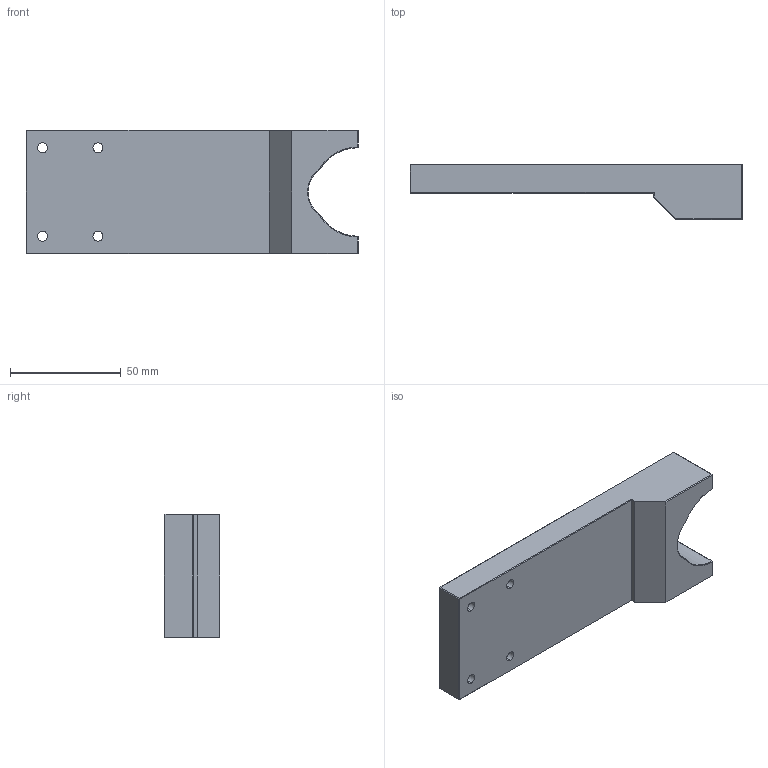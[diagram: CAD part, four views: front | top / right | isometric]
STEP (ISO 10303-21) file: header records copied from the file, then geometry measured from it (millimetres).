
FILE_DESCRIPTION (( 'STEP AP214' ), '1' );
FILE_NAME ('旳眻標厥噩芛1.STEP', '2026-09-01T01:32:17', ( '' ), ( '' ), 'SwSTEP 2.0', 'SolidWorks 2024', '' );
FILE_SCHEMA (( 'AUTOMOTIVE_DESIGN' ));
Length unit declared in the file: millimetre
Products named in the file (1): 竖直夹持镜头1
Bounding box: 150 x 25 x 56 mm (x, y, z)
Volume: 114373.7 mm3; surface area: 24381 mm2
Topology: 1 solids, 1 shells, 97 faces, 211 edges, 116 vertices
Faces by surface type: plane 48, cylinder 27, cone 22
Entity records: 2564 total; most frequent: DIRECTION 463, CARTESIAN_POINT 429, ORIENTED_EDGE 406, EDGE_CURVE 203, AXIS2_PLACEMENT_3D 166, LINE 131, VECTOR 131, VERTEX_POINT 116
